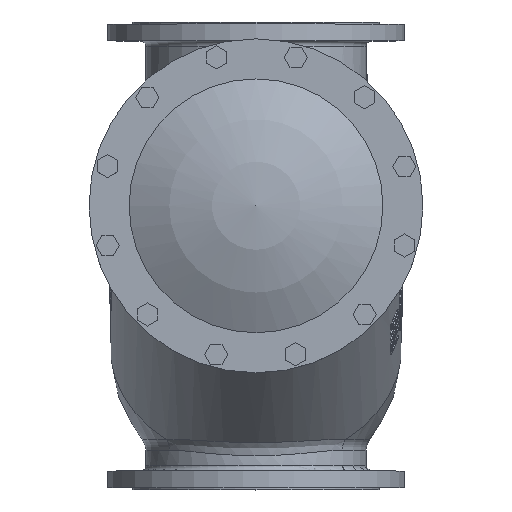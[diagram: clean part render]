
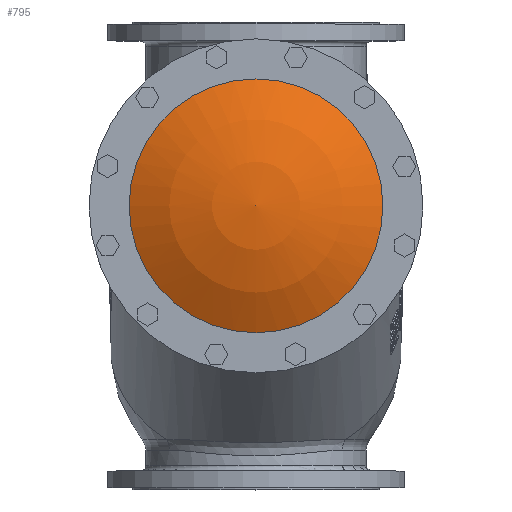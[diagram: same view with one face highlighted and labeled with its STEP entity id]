
A CAD part, top view. The second image highlights one B-rep face of the part: STEP entity #795.
In plain terms, the highlighted spherical face has radius 386 mm.
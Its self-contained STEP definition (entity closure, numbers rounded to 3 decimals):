
#795 = ADVANCED_FACE( '', ( #1875 ), #1876, .T. );
#1875 = FACE_OUTER_BOUND( '', #10223, .T. );
#1876 = SPHERICAL_SURFACE( '', #10224, 386. );
#10223 = EDGE_LOOP( '', ( #17275 ) );
#10224 = AXIS2_PLACEMENT_3D( '', #17276, #17277, #17278 );
#17275 = ORIENTED_EDGE( '', *, *, #19439, .T. );
#17276 = CARTESIAN_POINT( '', ( 0., 74.406, 72.509 ) );
#17277 = DIRECTION( '', ( 0., 0., 1. ) );
#17278 = DIRECTION( '', ( 0., -1., 0. ) );
#19439 = EDGE_CURVE( '', #21116, #21116, #21117, .T. );
#21116 = VERTEX_POINT( '', #27875 );
#21117 = CIRCLE( '', #27876, 190. );
#27875 = CARTESIAN_POINT( '', ( 190., 74.406, 408.509 ) );
#27876 = AXIS2_PLACEMENT_3D( '', #32691, #32692, #32693 );
#32691 = CARTESIAN_POINT( '', ( 0., 74.406, 408.509 ) );
#32692 = DIRECTION( '', ( 0., 0., 1. ) );
#32693 = DIRECTION( '', ( 1., 0., 0. ) );
